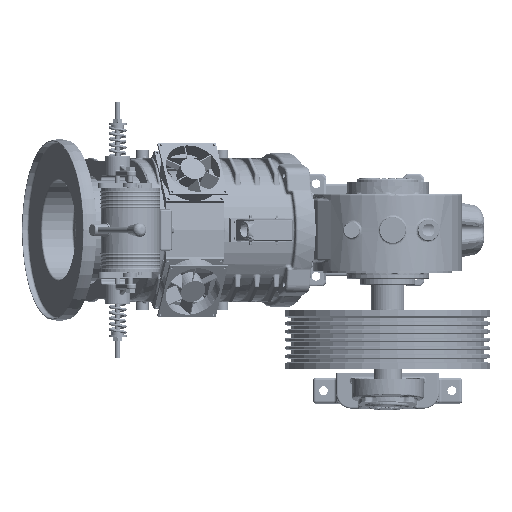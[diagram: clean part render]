
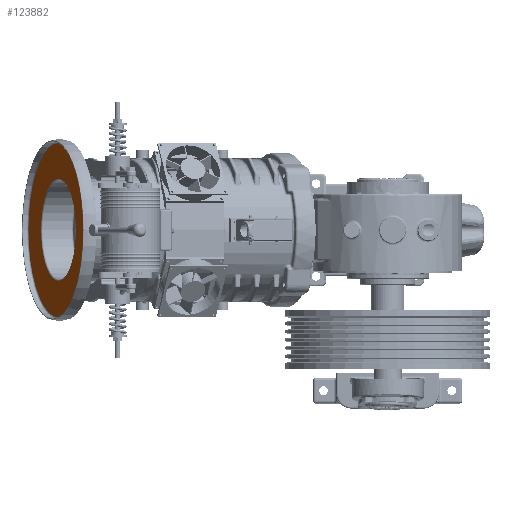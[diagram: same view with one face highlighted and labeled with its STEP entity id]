
A CAD part, left-side view. The second image highlights one B-rep face of the part: STEP entity #123882.
In plain terms, the highlighted planar face has unit normal (-0.342, 0.94, 0).
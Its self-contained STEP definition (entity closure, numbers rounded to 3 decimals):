
#5112 = AXIS2_PLACEMENT_3D ( 'NONE', #152265, #111148, #114807 ) ;
#22230 = DIRECTION ( 'NONE',  ( 0., 0., -1. ) ) ;
#24669 = DIRECTION ( 'NONE',  ( -0.342, 0.94, 0. ) ) ;
#30901 = VERTEX_POINT ( 'NONE', #240324 ) ;
#36002 = CIRCLE ( 'NONE', #175441, 99.5 ) ;
#40867 = CARTESIAN_POINT ( 'NONE',  ( -263.483, 479.943, -169.5 ) ) ;
#41288 = ORIENTED_EDGE ( 'NONE', *, *, #179079, .T. ) ;
#50079 = DIRECTION ( 'NONE',  ( 0.342, -0.94, 0. ) ) ;
#53344 = DIRECTION ( 'NONE',  ( 0., 0., -1. ) ) ;
#65010 = CIRCLE ( 'NONE', #220356, 169.5 ) ;
#67585 = CARTESIAN_POINT ( 'NONE',  ( -354.163, 446.938, 0. ) ) ;
#69748 = ORIENTED_EDGE ( 'NONE', *, *, #189937, .T. ) ;
#72065 = CARTESIAN_POINT ( 'NONE',  ( -263.483, 479.943, 0. ) ) ;
#72895 = VERTEX_POINT ( 'NONE', #40867 ) ;
#82370 = DIRECTION ( 'NONE',  ( 0.342, -0.94, 0. ) ) ;
#88690 = VERTEX_POINT ( 'NONE', #110433 ) ;
#105014 = FACE_BOUND ( 'NONE', #225717, .T. ) ;
#110433 = CARTESIAN_POINT ( 'NONE',  ( -263.483, 479.943, -99.5 ) ) ;
#111148 = DIRECTION ( 'NONE',  ( -0.342, 0.94, 0. ) ) ;
#114807 = DIRECTION ( 'NONE',  ( 0., 0., -1. ) ) ;
#120708 = VERTEX_POINT ( 'NONE', #185580 ) ;
#122945 = ORIENTED_EDGE ( 'NONE', *, *, #175480, .T. ) ;
#123882 = ADVANCED_FACE ( 'NONE', ( #105014, #163614 ), #182400, .F. ) ;
#127338 = ORIENTED_EDGE ( 'NONE', *, *, #130216, .T. ) ;
#130216 = EDGE_CURVE ( 'NONE', #72895, #120708, #136577, .T. ) ;
#136577 = CIRCLE ( 'NONE', #5112, 169.5 ) ;
#152265 = CARTESIAN_POINT ( 'NONE',  ( -263.483, 479.943, 0. ) ) ;
#163614 = FACE_OUTER_BOUND ( 'NONE', #165472, .T. ) ;
#165472 = EDGE_LOOP ( 'NONE', ( #127338, #41288 ) ) ;
#174083 = AXIS2_PLACEMENT_3D ( 'NONE', #214667, #82370, #217146 ) ;
#175441 = AXIS2_PLACEMENT_3D ( 'NONE', #72065, #208051, #53344 ) ;
#175480 = EDGE_CURVE ( 'NONE', #30901, #88690, #197967, .T. ) ;
#179079 = EDGE_CURVE ( 'NONE', #120708, #72895, #65010, .T. ) ;
#182400 = PLANE ( 'NONE',  #195089 ) ;
#185580 = CARTESIAN_POINT ( 'NONE',  ( -263.483, 479.943, 169.5 ) ) ;
#189937 = EDGE_CURVE ( 'NONE', #88690, #30901, #36002, .T. ) ;
#195089 = AXIS2_PLACEMENT_3D ( 'NONE', #67585, #50079, #238536 ) ;
#195644 = CARTESIAN_POINT ( 'NONE',  ( -263.483, 479.943, 0. ) ) ;
#197967 = CIRCLE ( 'NONE', #174083, 99.5 ) ;
#208051 = DIRECTION ( 'NONE',  ( 0.342, -0.94, 0. ) ) ;
#214667 = CARTESIAN_POINT ( 'NONE',  ( -263.483, 479.943, 0. ) ) ;
#217146 = DIRECTION ( 'NONE',  ( 0., 0., -1. ) ) ;
#220356 = AXIS2_PLACEMENT_3D ( 'NONE', #195644, #24669, #22230 ) ;
#225717 = EDGE_LOOP ( 'NONE', ( #69748, #122945 ) ) ;
#238536 = DIRECTION ( 'NONE',  ( 0., 0., -1. ) ) ;
#240324 = CARTESIAN_POINT ( 'NONE',  ( -263.483, 479.943, 99.5 ) ) ;
